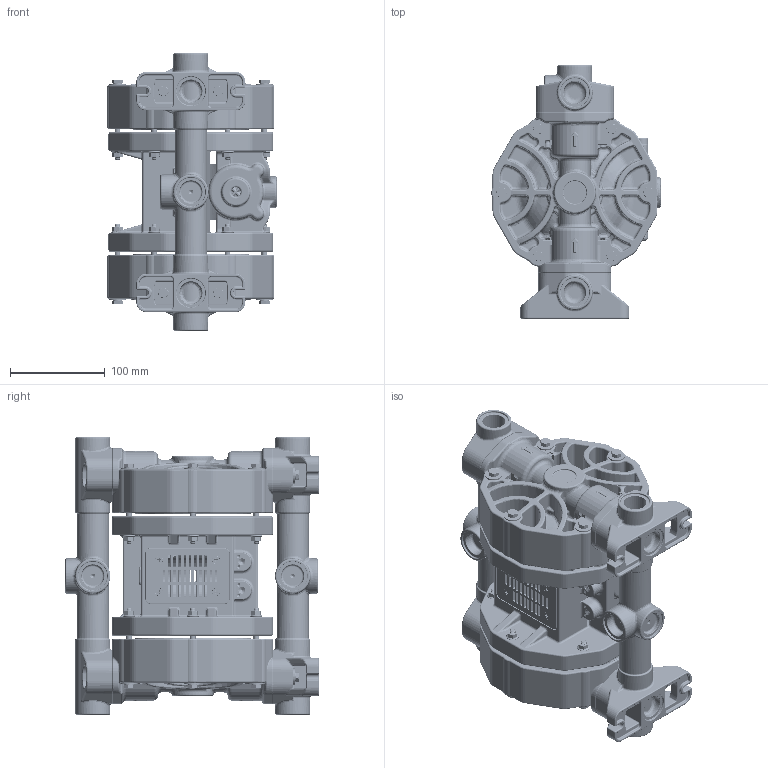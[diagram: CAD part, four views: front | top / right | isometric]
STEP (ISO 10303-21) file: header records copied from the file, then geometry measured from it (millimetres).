
FILE_DESCRIPTION (( 'STEP AP203' ), '1' );
FILE_NAME ('P90 Plastic - AB.STEP', '2020-10-05T12:24:58', ( 'User' ), ( 'Hewlett-Packard Company' ), 'SwSTEP 2.0', 'SolidWorks 2018', '' );
FILE_SCHEMA (( 'CONFIG_CONTROL_DESIGN' ));
Products named in the file (1): P90  Plastic - AB
Bounding box: 178.85 x 267.5 x 293 mm (x, y, z)
Volume: 2995445.5 mm3; surface area: 789779.7 mm2
Topology: 76 solids, 76 shells, 12342 faces, 27564 edges, 14996 vertices
Faces by surface type: cylinder 3498, torus 3190, cone 2008, plane 1639, bspline 1527, sphere 480
Entity records: 405138 total; most frequent: CARTESIAN_POINT 141055, DIRECTION 59058, ORIENTED_EDGE 54056, EDGE_CURVE 27028, AXIS2_PLACEMENT_3D 25378, VERTEX_POINT 14921, CIRCLE 14562, EDGE_LOOP 12721
